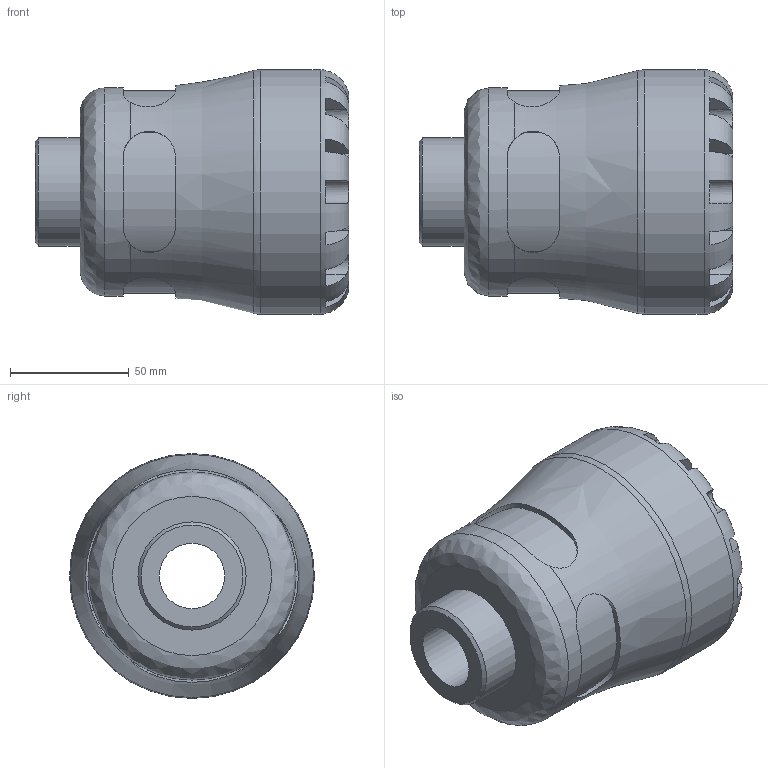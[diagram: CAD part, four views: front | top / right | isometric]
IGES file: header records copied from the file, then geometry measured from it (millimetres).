
Global section: file name: 107200063015_197200063015.ipt; native system: Autodesk Inventor 2015; preprocessor: unknown; author: KIM; date: 20170122.105002; units: millimetre
Bounding box: 132 x 103 x 103 mm (x, y, z)
Volume: 498411.3 mm3; surface area: 72037.4 mm2
Topology: 1 solids, 1 shells, 107 faces, 288 edges, 185 vertices
Faces by surface type: plane 68, revolution 23, cylinder 15, cone 1
Full cylindrical faces by diameter (mm): 45.485 x1, 87.55 x1, 103 x1
